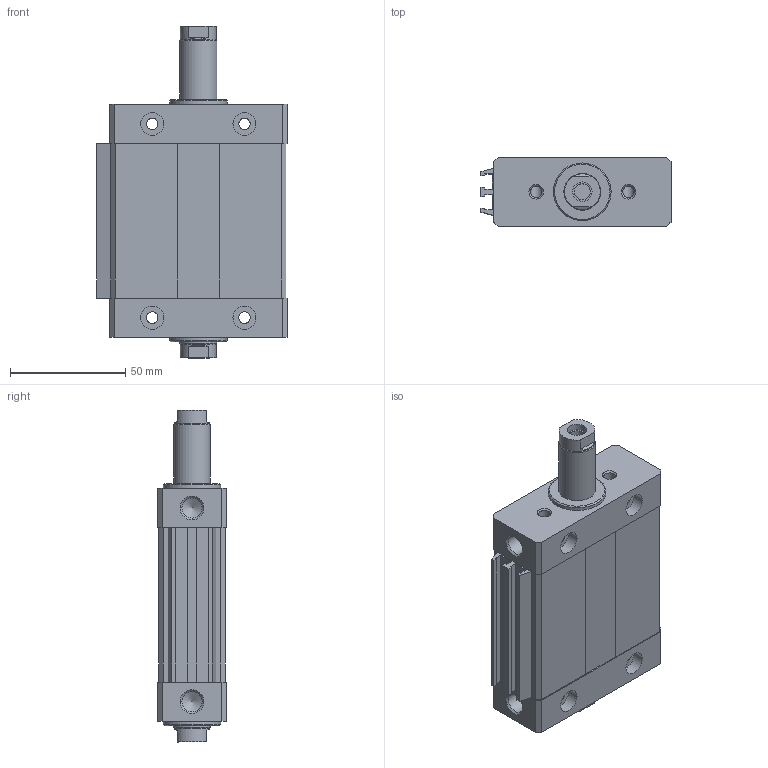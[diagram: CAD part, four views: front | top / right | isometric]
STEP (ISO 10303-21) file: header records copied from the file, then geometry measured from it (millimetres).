
FILE_DESCRIPTION((''),'2;1');
FILE_NAME('I:\Area Tecnica\Disegni\VARIE-3D\Componenti\1370 - CPO\1370_##_0000_03\1370_40_0025_03-01.iam.step','2010-12-16T10:56:15',(''),(''),'Autodesk Inventor 2011','Autodesk Inventor 2011','');
FILE_SCHEMA(('AUTOMOTIVE_DESIGN { 1 0 10303 214 1 1 1 1 }'));
Length unit declared in the file: millimetre
Products named in the file (5): 1370_40_0025_03-01; 1370_05_40_0000; 1370_06_40_0025; 1370_08_40_0000; 1370_3_40_0025
Assembly tree (4 placements, depth 2):
  1370_40_0025_03-01
    1370_05_40_0000
    1370_06_40_0025
    1370_08_40_0000
    1370_3_40_0025
Bounding box: 82.5 x 30 x 144 mm (x, y, z)
Volume: 202566.6 mm3; surface area: 66753.8 mm2
Topology: 4 solids, 4 shells, 166 faces, 398 edges, 254 vertices
Faces by surface type: plane 94, cylinder 48, cone 24
Full cylindrical faces by diameter (mm): 5 x10, 6.8 x2, 8.4 x2, 8.7 x2, 10 x8, 15.5 x2, 16 x4, 25 x2
Entity records: 4848 total; most frequent: DIRECTION 802, CARTESIAN_POINT 799, ORIENTED_EDGE 672, EDGE_CURVE 336, AXIS2_PLACEMENT_3D 299, EDGE_LOOP 254, VERTEX_POINT 244, VECTOR 204
